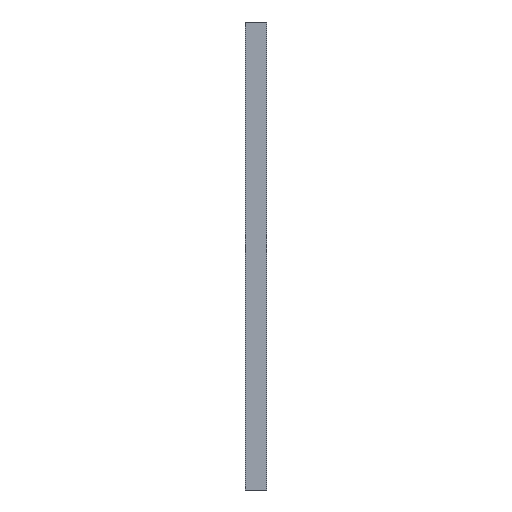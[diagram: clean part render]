
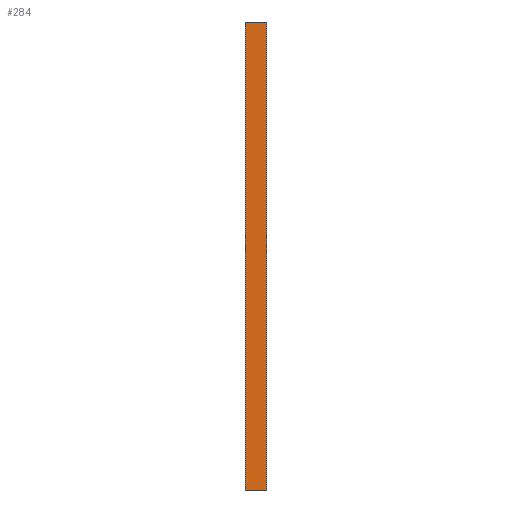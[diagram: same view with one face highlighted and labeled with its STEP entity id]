
A CAD part, front view. The second image highlights one B-rep face of the part: STEP entity #284.
In plain terms, the highlighted planar face has unit normal (0, -1, 0).
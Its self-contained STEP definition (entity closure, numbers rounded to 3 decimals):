
#21 = EDGE_CURVE('',#22,#24,#26,.T.);
#22 = VERTEX_POINT('',#23);
#23 = CARTESIAN_POINT('',(0.,0.,213.));
#24 = VERTEX_POINT('',#25);
#25 = CARTESIAN_POINT('',(10.,0.,213.));
#26 = SURFACE_CURVE('',#27,(#31,#43),.PCURVE_S1.);
#27 = LINE('',#28,#29);
#28 = CARTESIAN_POINT('',(0.,0.,213.));
#29 = VECTOR('',#30,1.);
#30 = DIRECTION('',(1.,0.,0.));
#31 = PCURVE('',#32,#37);
#32 = PLANE('',#33);
#33 = AXIS2_PLACEMENT_3D('',#34,#35,#36);
#34 = CARTESIAN_POINT('',(0.,0.,213.));
#35 = DIRECTION('',(0.,0.,1.));
#36 = DIRECTION('',(0.,1.,0.));
#37 = DEFINITIONAL_REPRESENTATION('',(#38),#42);
#38 = LINE('',#39,#40);
#39 = CARTESIAN_POINT('',(0.,0.));
#40 = VECTOR('',#41,1.);
#41 = DIRECTION('',(0.,-1.));
#42 = ( GEOMETRIC_REPRESENTATION_CONTEXT(2) 
PARAMETRIC_REPRESENTATION_CONTEXT() REPRESENTATION_CONTEXT('2D SPACE',''
  ) );
#43 = PCURVE('',#44,#49);
#44 = PLANE('',#45);
#45 = AXIS2_PLACEMENT_3D('',#46,#47,#48);
#46 = CARTESIAN_POINT('',(0.,0.,0.));
#47 = DIRECTION('',(0.,-1.,0.));
#48 = DIRECTION('',(0.,0.,1.));
#49 = DEFINITIONAL_REPRESENTATION('',(#50),#54);
#50 = LINE('',#51,#52);
#51 = CARTESIAN_POINT('',(213.,0.));
#52 = VECTOR('',#53,1.);
#53 = DIRECTION('',(0.,-1.));
#54 = ( GEOMETRIC_REPRESENTATION_CONTEXT(2) 
PARAMETRIC_REPRESENTATION_CONTEXT() REPRESENTATION_CONTEXT('2D SPACE',''
  ) );
#72 = PLANE('',#73);
#73 = AXIS2_PLACEMENT_3D('',#74,#75,#76);
#74 = CARTESIAN_POINT('',(10.,137.5,106.5));
#75 = DIRECTION('',(-1.,-0.,0.));
#76 = DIRECTION('',(0.,0.,-1.));
#126 = PLANE('',#127);
#127 = AXIS2_PLACEMENT_3D('',#128,#129,#130);
#128 = CARTESIAN_POINT('',(0.,137.5,106.5));
#129 = DIRECTION('',(-1.,-0.,0.));
#130 = DIRECTION('',(0.,0.,-1.));
#181 = PLANE('',#182);
#182 = AXIS2_PLACEMENT_3D('',#183,#184,#185);
#183 = CARTESIAN_POINT('',(0.,275.,0.));
#184 = DIRECTION('',(0.,0.,-1.));
#185 = DIRECTION('',(0.,-1.,0.));
#219 = VERTEX_POINT('',#220);
#220 = CARTESIAN_POINT('',(10.,0.,0.));
#241 = EDGE_CURVE('',#242,#219,#244,.T.);
#242 = VERTEX_POINT('',#243);
#243 = CARTESIAN_POINT('',(0.,0.,0.));
#244 = SURFACE_CURVE('',#245,(#249,#256),.PCURVE_S1.);
#245 = LINE('',#246,#247);
#246 = CARTESIAN_POINT('',(0.,0.,0.));
#247 = VECTOR('',#248,1.);
#248 = DIRECTION('',(1.,0.,0.));
#249 = PCURVE('',#181,#250);
#250 = DEFINITIONAL_REPRESENTATION('',(#251),#255);
#251 = LINE('',#252,#253);
#252 = CARTESIAN_POINT('',(275.,0.));
#253 = VECTOR('',#254,1.);
#254 = DIRECTION('',(0.,-1.));
#255 = ( GEOMETRIC_REPRESENTATION_CONTEXT(2) 
PARAMETRIC_REPRESENTATION_CONTEXT() REPRESENTATION_CONTEXT('2D SPACE',''
  ) );
#256 = PCURVE('',#44,#257);
#257 = DEFINITIONAL_REPRESENTATION('',(#258),#262);
#258 = LINE('',#259,#260);
#259 = CARTESIAN_POINT('',(0.,0.));
#260 = VECTOR('',#261,1.);
#261 = DIRECTION('',(0.,-1.));
#262 = ( GEOMETRIC_REPRESENTATION_CONTEXT(2) 
PARAMETRIC_REPRESENTATION_CONTEXT() REPRESENTATION_CONTEXT('2D SPACE',''
  ) );
#284 = ADVANCED_FACE('',(#285),#44,.T.);
#285 = FACE_BOUND('',#286,.T.);
#286 = EDGE_LOOP('',(#287,#288,#309,#310));
#287 = ORIENTED_EDGE('',*,*,#241,.T.);
#288 = ORIENTED_EDGE('',*,*,#289,.T.);
#289 = EDGE_CURVE('',#219,#24,#290,.T.);
#290 = SURFACE_CURVE('',#291,(#295,#302),.PCURVE_S1.);
#291 = LINE('',#292,#293);
#292 = CARTESIAN_POINT('',(10.,0.,0.));
#293 = VECTOR('',#294,1.);
#294 = DIRECTION('',(0.,0.,1.));
#295 = PCURVE('',#44,#296);
#296 = DEFINITIONAL_REPRESENTATION('',(#297),#301);
#297 = LINE('',#298,#299);
#298 = CARTESIAN_POINT('',(0.,-10.));
#299 = VECTOR('',#300,1.);
#300 = DIRECTION('',(1.,0.));
#301 = ( GEOMETRIC_REPRESENTATION_CONTEXT(2) 
PARAMETRIC_REPRESENTATION_CONTEXT() REPRESENTATION_CONTEXT('2D SPACE',''
  ) );
#302 = PCURVE('',#72,#303);
#303 = DEFINITIONAL_REPRESENTATION('',(#304),#308);
#304 = LINE('',#305,#306);
#305 = CARTESIAN_POINT('',(106.5,137.5));
#306 = VECTOR('',#307,1.);
#307 = DIRECTION('',(-1.,0.));
#308 = ( GEOMETRIC_REPRESENTATION_CONTEXT(2) 
PARAMETRIC_REPRESENTATION_CONTEXT() REPRESENTATION_CONTEXT('2D SPACE',''
  ) );
#309 = ORIENTED_EDGE('',*,*,#21,.F.);
#310 = ORIENTED_EDGE('',*,*,#311,.F.);
#311 = EDGE_CURVE('',#242,#22,#312,.T.);
#312 = SURFACE_CURVE('',#313,(#317,#324),.PCURVE_S1.);
#313 = LINE('',#314,#315);
#314 = CARTESIAN_POINT('',(0.,0.,0.));
#315 = VECTOR('',#316,1.);
#316 = DIRECTION('',(0.,0.,1.));
#317 = PCURVE('',#44,#318);
#318 = DEFINITIONAL_REPRESENTATION('',(#319),#323);
#319 = LINE('',#320,#321);
#320 = CARTESIAN_POINT('',(0.,0.));
#321 = VECTOR('',#322,1.);
#322 = DIRECTION('',(1.,0.));
#323 = ( GEOMETRIC_REPRESENTATION_CONTEXT(2) 
PARAMETRIC_REPRESENTATION_CONTEXT() REPRESENTATION_CONTEXT('2D SPACE',''
  ) );
#324 = PCURVE('',#126,#325);
#325 = DEFINITIONAL_REPRESENTATION('',(#326),#330);
#326 = LINE('',#327,#328);
#327 = CARTESIAN_POINT('',(106.5,137.5));
#328 = VECTOR('',#329,1.);
#329 = DIRECTION('',(-1.,0.));
#330 = ( GEOMETRIC_REPRESENTATION_CONTEXT(2) 
PARAMETRIC_REPRESENTATION_CONTEXT() REPRESENTATION_CONTEXT('2D SPACE',''
  ) );
